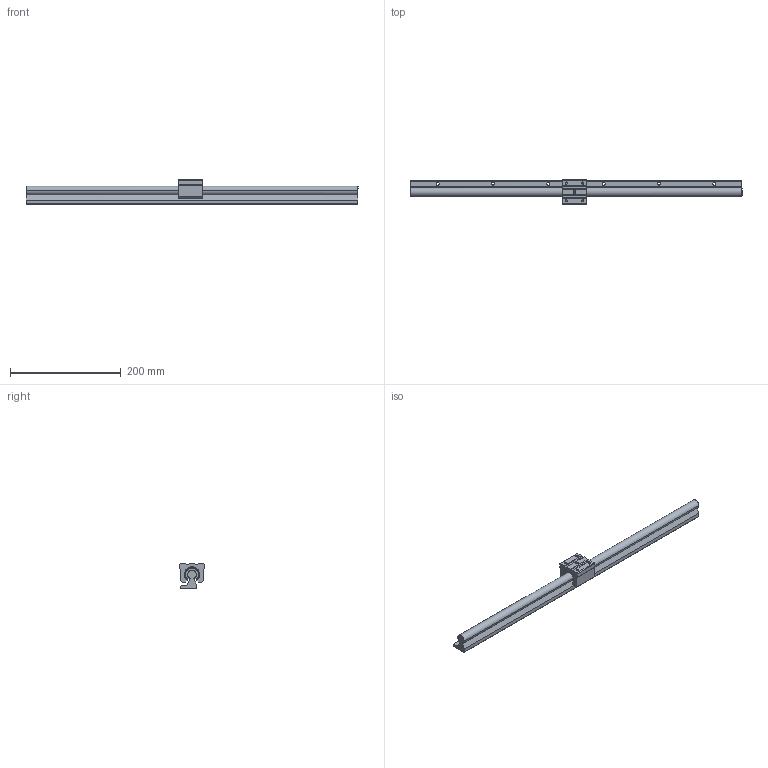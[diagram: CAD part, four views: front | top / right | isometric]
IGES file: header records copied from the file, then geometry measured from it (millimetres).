
Global section: file name: No Iges File Name specified; native system: AutoDesk Inventor R10; preprocessor: AutoDesk Inventor Iges Exporter R10; author: No Author specified; organization: No Organization specified; date: 20101221.091255; units: millimetre
Bounding box: 600 x 45 x 45 mm (x, y, z)
Surface area: 86754 mm2 (no closed solid volume)
Topology: 0 solids, 0 shells, 219 faces, 1434 edges, 1412 vertices
Faces by surface type: bspline 219
